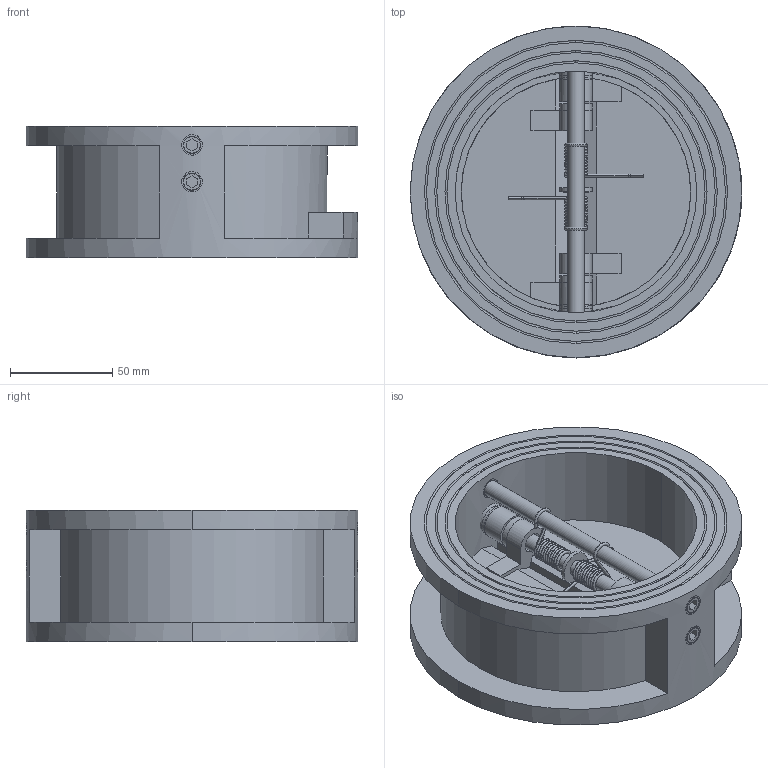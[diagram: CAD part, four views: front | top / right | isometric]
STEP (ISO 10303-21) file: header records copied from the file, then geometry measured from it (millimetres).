
FILE_DESCRIPTION((''),'2;1');
FILE_NAME('CV-16WS_SB_ASM','2026-03-23T',('user'),(''),'PRO/ENGINEER BY PARAMETRIC TECHNOLOGY CORPORATION, 2011220','PRO/ENGINEER BY PARAMETRIC TECHNOLOGY CORPORATION, 2011220','');
FILE_SCHEMA(('CONFIG_CONTROL_DESIGN'));
Length unit declared in the file: millimetre
Products named in the file (10): CV-16WS_KORPUS; CV-16WS_DET_2; CV-16WS_DET_3; CV-16WS_DET_4_SHTOK; CV-16WS_DET_5; CV-16WS_DET_6; CV-16WS_DET_7; CV-16WS_DET_8; CV-16WS_DET_9; CV-16WS_SB_ASM
Assembly tree (24 placements, depth 2):
  CV-16WS_SB_ASM
    CV-16WS_KORPUS
    CV-16WS_DET_2  x2
    CV-16WS_DET_3  x2
    CV-16WS_DET_4_SHTOK  x2
    CV-16WS_DET_5  x5
    CV-16WS_DET_6  x2
    CV-16WS_DET_7  x4
    CV-16WS_DET_8  x4
    CV-16WS_DET_9  x2
Bounding box: 162 x 162 x 64 mm (x, y, z)
Volume: 541492.5 mm3; surface area: 165943.5 mm2
Topology: 24 solids, 32 shells, 323 faces, 746 edges, 486 vertices
Faces by surface type: plane 147, cylinder 130, torus 24, bspline 12, cone 6, revolution 4
Entity records: 9429 total; most frequent: CARTESIAN_POINT 4787, DIRECTION 977, ORIENTED_EDGE 844, EDGE_CURVE 436, AXIS2_PLACEMENT_3D 391, VERTEX_POINT 285, EDGE_LOOP 221, VECTOR 193
